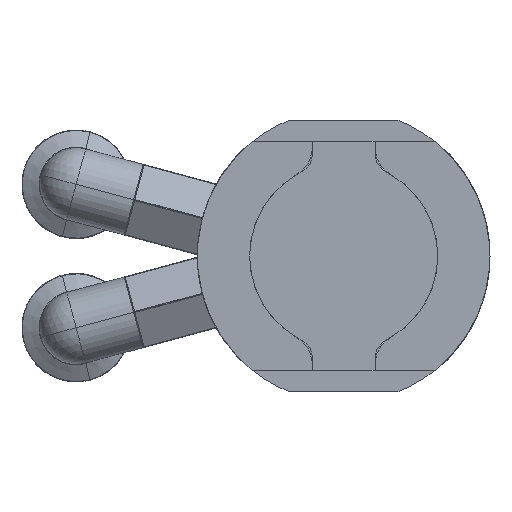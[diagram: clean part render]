
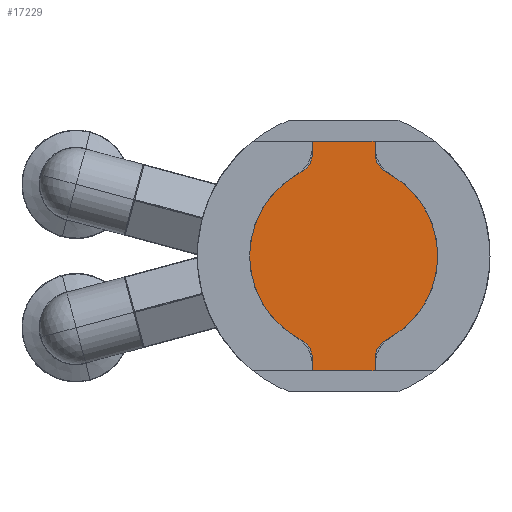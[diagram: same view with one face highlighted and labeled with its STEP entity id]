
A CAD part, front view. The second image highlights one B-rep face of the part: STEP entity #17229.
In plain terms, the highlighted planar face has unit normal (0, -1, 0).
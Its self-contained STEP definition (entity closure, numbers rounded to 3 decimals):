
#222 = DIRECTION ( 'NONE',  ( 0., 0., -1. ) ) ;
#588 = VERTEX_POINT ( 'NONE', #1021 ) ;
#1021 = CARTESIAN_POINT ( 'NONE',  ( 3., 0., -11. ) ) ;
#1177 = CARTESIAN_POINT ( 'NONE',  ( -5., 0., 9.798 ) ) ;
#1305 = EDGE_CURVE ( 'NONE', #588, #21589, #8944, .T. ) ;
#1339 = ORIENTED_EDGE ( 'NONE', *, *, #23385, .T. ) ;
#1344 = AXIS2_PLACEMENT_3D ( 'NONE', #3494, #23594, #5429 ) ;
#1645 = AXIS2_PLACEMENT_3D ( 'NONE', #9290, #20403, #3472 ) ;
#1684 = EDGE_CURVE ( 'NONE', #14175, #20813, #13363, .T. ) ;
#1797 = EDGE_CURVE ( 'NONE', #14483, #21400, #7539, .T. ) ;
#1922 = LINE ( 'NONE', #12982, #4378 ) ;
#2951 = CIRCLE ( 'NONE', #5249, 2. ) ;
#2974 = EDGE_CURVE ( 'NONE', #20952, #14175, #7738, .T. ) ;
#3472 = DIRECTION ( 'NONE',  ( 0., 0., 1. ) ) ;
#3494 = CARTESIAN_POINT ( 'NONE',  ( -5., 0., -9.798 ) ) ;
#3732 = CARTESIAN_POINT ( 'NONE',  ( 3., 0., 0. ) ) ;
#3924 = DIRECTION ( 'NONE',  ( 0., 0., -1. ) ) ;
#4162 = ORIENTED_EDGE ( 'NONE', *, *, #2974, .T. ) ;
#4188 = CARTESIAN_POINT ( 'NONE',  ( -3., 0., -9.798 ) ) ;
#4206 = DIRECTION ( 'NONE',  ( 0., -1., 0. ) ) ;
#4378 = VECTOR ( 'NONE', #222, 1000. ) ;
#4588 = EDGE_CURVE ( 'NONE', #20813, #20910, #7691, .T. ) ;
#5249 = AXIS2_PLACEMENT_3D ( 'NONE', #1177, #8701, #8818 ) ;
#5429 = DIRECTION ( 'NONE',  ( 0., 0., 1. ) ) ;
#5692 = CARTESIAN_POINT ( 'NONE',  ( -3., 0., 9.798 ) ) ;
#5858 = CARTESIAN_POINT ( 'NONE',  ( -3., 0., 0. ) ) ;
#6004 = CARTESIAN_POINT ( 'NONE',  ( -3., 0., -11. ) ) ;
#6050 = CARTESIAN_POINT ( 'NONE',  ( 0., 0., 0. ) ) ;
#6620 = CARTESIAN_POINT ( 'NONE',  ( 4.091, 0., -8.017 ) ) ;
#6628 = VECTOR ( 'NONE', #3924, 1000. ) ;
#6659 = DIRECTION ( 'NONE',  ( 1., 0., 0. ) ) ;
#6813 = EDGE_CURVE ( 'NONE', #21589, #19236, #14721, .T. ) ;
#6914 = DIRECTION ( 'NONE',  ( 0., 0., -1. ) ) ;
#7539 = CIRCLE ( 'NONE', #1344, 2. ) ;
#7691 = LINE ( 'NONE', #5858, #6628 ) ;
#7738 = LINE ( 'NONE', #20438, #15780 ) ;
#7748 = ORIENTED_EDGE ( 'NONE', *, *, #20126, .T. ) ;
#7956 = CARTESIAN_POINT ( 'NONE',  ( -4.091, 0., -8.017 ) ) ;
#8494 = CARTESIAN_POINT ( 'NONE',  ( -3., 0., 11. ) ) ;
#8666 = PLANE ( 'NONE',  #9023 ) ;
#8701 = DIRECTION ( 'NONE',  ( 0., 1., 0. ) ) ;
#8818 = DIRECTION ( 'NONE',  ( 0., 0., 1. ) ) ;
#8944 = LINE ( 'NONE', #3732, #14057 ) ;
#9023 = AXIS2_PLACEMENT_3D ( 'NONE', #12788, #16223, #20129 ) ;
#9218 = CARTESIAN_POINT ( 'NONE',  ( 3., 0., 9.798 ) ) ;
#9290 = CARTESIAN_POINT ( 'NONE',  ( 5., 0., 9.798 ) ) ;
#10025 = EDGE_CURVE ( 'NONE', #19236, #13128, #12956, .T. ) ;
#10064 = EDGE_LOOP ( 'NONE', ( #22189, #16900, #15692, #19465, #15618, #15841, #11181, #1339, #4162, #11612, #16957, #7748 ) ) ;
#10402 = CARTESIAN_POINT ( 'NONE',  ( -4.091, 0., 8.017 ) ) ;
#10410 = DIRECTION ( 'NONE',  ( 0., 0., 1. ) ) ;
#11181 = ORIENTED_EDGE ( 'NONE', *, *, #10025, .T. ) ;
#11417 = CARTESIAN_POINT ( 'NONE',  ( 3., 0., 11. ) ) ;
#11612 = ORIENTED_EDGE ( 'NONE', *, *, #1684, .T. ) ;
#11725 = CIRCLE ( 'NONE', #1645, 2. ) ;
#12213 = AXIS2_PLACEMENT_3D ( 'NONE', #6050, #4206, #20659 ) ;
#12323 = VERTEX_POINT ( 'NONE', #6004 ) ;
#12602 = DIRECTION ( 'NONE',  ( 0., 0., 1. ) ) ;
#12788 = CARTESIAN_POINT ( 'NONE',  ( 0., 0., 0. ) ) ;
#12956 = CIRCLE ( 'NONE', #12213, 9. ) ;
#12982 = CARTESIAN_POINT ( 'NONE',  ( -3., 0., 0. ) ) ;
#13124 = AXIS2_PLACEMENT_3D ( 'NONE', #23322, #17740, #10410 ) ;
#13128 = VERTEX_POINT ( 'NONE', #17841 ) ;
#13363 = LINE ( 'NONE', #20573, #14154 ) ;
#14057 = VECTOR ( 'NONE', #12602, 1000. ) ;
#14154 = VECTOR ( 'NONE', #22392, 1000. ) ;
#14175 = VERTEX_POINT ( 'NONE', #11417 ) ;
#14483 = VERTEX_POINT ( 'NONE', #7956 ) ;
#14721 = CIRCLE ( 'NONE', #13124, 2. ) ;
#15131 = EDGE_CURVE ( 'NONE', #12323, #588, #23356, .T. ) ;
#15618 = ORIENTED_EDGE ( 'NONE', *, *, #1305, .T. ) ;
#15692 = ORIENTED_EDGE ( 'NONE', *, *, #17946, .T. ) ;
#15780 = VECTOR ( 'NONE', #20667, 1000. ) ;
#15841 = ORIENTED_EDGE ( 'NONE', *, *, #6813, .T. ) ;
#16174 = CARTESIAN_POINT ( 'NONE',  ( 0., 0., 0. ) ) ;
#16223 = DIRECTION ( 'NONE',  ( 0., 1., 0. ) ) ;
#16900 = ORIENTED_EDGE ( 'NONE', *, *, #1797, .T. ) ;
#16957 = ORIENTED_EDGE ( 'NONE', *, *, #4588, .T. ) ;
#17196 = CARTESIAN_POINT ( 'NONE',  ( 3., 0., -9.798 ) ) ;
#17229 = ADVANCED_FACE ( 'NONE', ( #22183 ), #8666, .F. ) ;
#17518 = CARTESIAN_POINT ( 'NONE',  ( 0., 0., -11. ) ) ;
#17740 = DIRECTION ( 'NONE',  ( 0., 1., 0. ) ) ;
#17841 = CARTESIAN_POINT ( 'NONE',  ( 4.091, 0., 8.017 ) ) ;
#17946 = EDGE_CURVE ( 'NONE', #21400, #12323, #1922, .T. ) ;
#18914 = CIRCLE ( 'NONE', #20880, 9. ) ;
#19236 = VERTEX_POINT ( 'NONE', #6620 ) ;
#19281 = VERTEX_POINT ( 'NONE', #10402 ) ;
#19465 = ORIENTED_EDGE ( 'NONE', *, *, #15131, .T. ) ;
#20126 = EDGE_CURVE ( 'NONE', #20910, #19281, #2951, .T. ) ;
#20129 = DIRECTION ( 'NONE',  ( 0., 0., 1. ) ) ;
#20394 = VECTOR ( 'NONE', #6659, 1000. ) ;
#20403 = DIRECTION ( 'NONE',  ( 0., 1., 0. ) ) ;
#20438 = CARTESIAN_POINT ( 'NONE',  ( 3., 0., 0. ) ) ;
#20573 = CARTESIAN_POINT ( 'NONE',  ( 0., 0., 11. ) ) ;
#20659 = DIRECTION ( 'NONE',  ( 0., 0., -1. ) ) ;
#20667 = DIRECTION ( 'NONE',  ( 0., 0., 1. ) ) ;
#20813 = VERTEX_POINT ( 'NONE', #8494 ) ;
#20862 = EDGE_CURVE ( 'NONE', #19281, #14483, #18914, .T. ) ;
#20880 = AXIS2_PLACEMENT_3D ( 'NONE', #16174, #23603, #6914 ) ;
#20910 = VERTEX_POINT ( 'NONE', #5692 ) ;
#20952 = VERTEX_POINT ( 'NONE', #9218 ) ;
#21400 = VERTEX_POINT ( 'NONE', #4188 ) ;
#21589 = VERTEX_POINT ( 'NONE', #17196 ) ;
#22183 = FACE_OUTER_BOUND ( 'NONE', #10064, .T. ) ;
#22189 = ORIENTED_EDGE ( 'NONE', *, *, #20862, .T. ) ;
#22392 = DIRECTION ( 'NONE',  ( -1., 0., 0. ) ) ;
#23322 = CARTESIAN_POINT ( 'NONE',  ( 5., 0., -9.798 ) ) ;
#23356 = LINE ( 'NONE', #17518, #20394 ) ;
#23385 = EDGE_CURVE ( 'NONE', #13128, #20952, #11725, .T. ) ;
#23594 = DIRECTION ( 'NONE',  ( 0., 1., 0. ) ) ;
#23603 = DIRECTION ( 'NONE',  ( 0., -1., 0. ) ) ;
